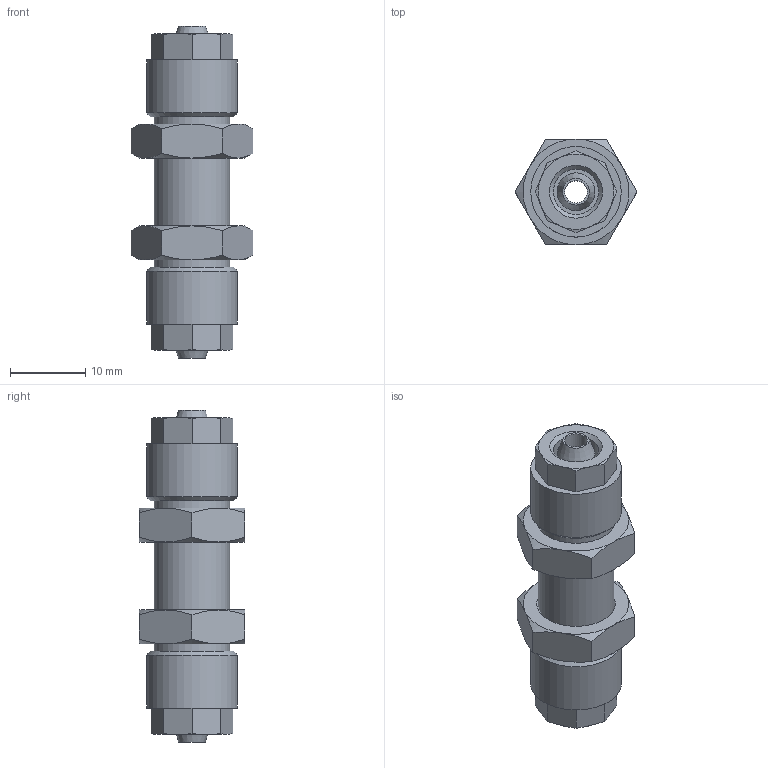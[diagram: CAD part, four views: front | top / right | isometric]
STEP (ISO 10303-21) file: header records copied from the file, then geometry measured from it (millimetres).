
FILE_DESCRIPTION(/* description */ (''),/* implementation_level */ '2;1');
FILE_NAME(/* name */ '10504_304_64_17.07.17',/* time_stamp */ '2017-07-17T12:01:12+02:00',/* author */ (''),/* organization */ (''),/* preprocessor_version */ 'ST-DEVELOPER v16.5',/* originating_system */ 'HiCAD 2016 2102.2 Build 618',/* authorisation */ '');
FILE_SCHEMA (('AUTOMOTIVE_DESIGN { 1 0 10303 214 1 1 1 1 }'));
Length unit declared in the file: millimetre
Products named in the file (6): Root; R10504; 17005; 401392_KONTERMUTTER_M10X1
Assembly tree (5 placements, depth 2):
  Root
    R10504
    17005
    17005
    401392_KONTERMUTTER_M10X1
    401392_KONTERMUTTER_M10X1
Bounding box: 16.17 x 14 x 44 mm (x, y, z)
Volume: 4560.4 mm3; surface area: 4357.1 mm2
Topology: 5 solids, 5 shells, 114 faces, 250 edges, 152 vertices
Faces by surface type: cone 56, plane 44, cylinder 12, torus 2
Full cylindrical faces by diameter (mm): 3 x1, 4.5 x2, 6 x2, 8.773 x2, 8.8 x2, 10 x1, 12 x2
Entity records: 5096 total; most frequent: DIRECTION 616, CARTESIAN_POINT 468, PRESENTATION_STYLE_ASSIGNMENT 417, COLOUR_RGB 413, DRAUGHTING_PRE_DEFINED_CURVE_FONT 412, CURVE_STYLE 412, OVER_RIDING_STYLED_ITEM 412, ORIENTED_EDGE 412
